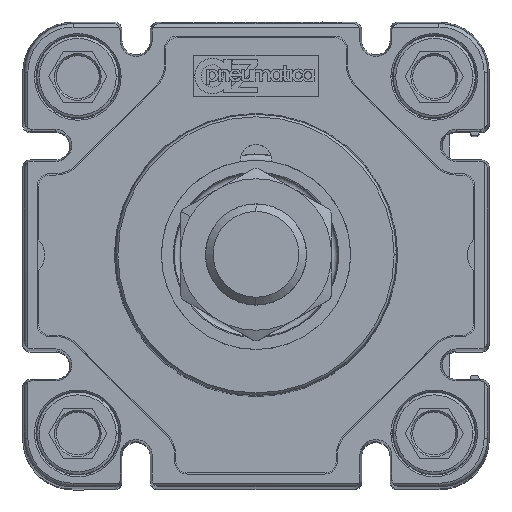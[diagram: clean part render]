
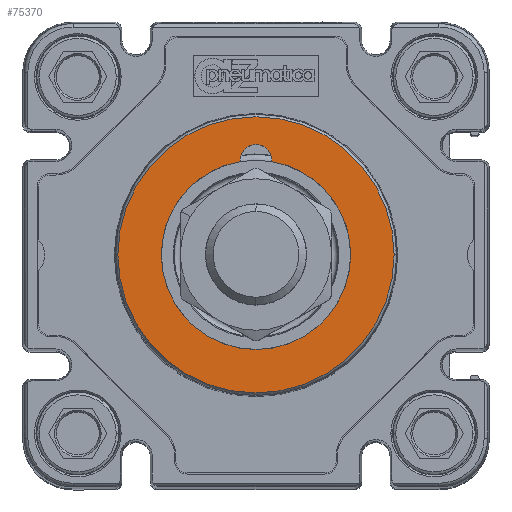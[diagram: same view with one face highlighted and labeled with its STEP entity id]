
A CAD part, top view. The second image highlights one B-rep face of the part: STEP entity #75370.
In plain terms, the highlighted planar face has unit normal (0, 0, 1) as drawn and (0, 0, -1) by its records, which use the part's own axes.
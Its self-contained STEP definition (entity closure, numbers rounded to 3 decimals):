
#52 = EDGE_CURVE ( 'NONE', #84298, #55320, #59478, .T. ) ;
#2358 = VERTEX_POINT ( 'NONE', #27566 ) ;
#3417 = CARTESIAN_POINT ( 'NONE',  ( -15., 0., -57.7 ) ) ;
#5502 = CARTESIAN_POINT ( 'NONE',  ( 0., 0., -57.7 ) ) ;
#5899 = DIRECTION ( 'NONE',  ( 0., 0., 1. ) ) ;
#7448 = DIRECTION ( 'NONE',  ( -1., 0., 0. ) ) ;
#7705 = ORIENTED_EDGE ( 'NONE', *, *, #34279, .T. ) ;
#8964 = CARTESIAN_POINT ( 'NONE',  ( 0., 0., -57.7 ) ) ;
#10767 = VERTEX_POINT ( 'NONE', #76445 ) ;
#11203 = ORIENTED_EDGE ( 'NONE', *, *, #52, .T. ) ;
#12220 = FACE_BOUND ( 'NONE', #12350, .T. ) ;
#12350 = EDGE_LOOP ( 'NONE', ( #92099, #56064, #65234, #11203, #57178, #7705 ) ) ;
#12734 = CARTESIAN_POINT ( 'NONE',  ( 0., 0., -57.7 ) ) ;
#13365 = CIRCLE ( 'NONE', #50775, 15. ) ;
#14003 = CARTESIAN_POINT ( 'NONE',  ( 0., 15., -57.7 ) ) ;
#14781 = DIRECTION ( 'NONE',  ( 0., 0., 1. ) ) ;
#15249 = DIRECTION ( 'NONE',  ( 0., 0., 1. ) ) ;
#18496 = EDGE_CURVE ( 'NONE', #80256, #10767, #26252, .T. ) ;
#21159 = AXIS2_PLACEMENT_3D ( 'NONE', #5502, #64485, #86404 ) ;
#23245 = CARTESIAN_POINT ( 'NONE',  ( -2.491, 14.792, -57.7 ) ) ;
#23252 = CARTESIAN_POINT ( 'NONE',  ( 0., 0., -57.7 ) ) ;
#25413 = AXIS2_PLACEMENT_3D ( 'NONE', #14003, #66143, #51269 ) ;
#26252 = CIRCLE ( 'NONE', #68666, 21.892 ) ;
#27566 = CARTESIAN_POINT ( 'NONE',  ( 15., 0., -57.7 ) ) ;
#28357 = DIRECTION ( 'NONE',  ( -1., 0., 0. ) ) ;
#30039 = AXIS2_PLACEMENT_3D ( 'NONE', #23252, #38175, #45594 ) ;
#33016 = VERTEX_POINT ( 'NONE', #73482 ) ;
#34279 = EDGE_CURVE ( 'NONE', #2358, #33016, #13365, .T. ) ;
#35788 = CIRCLE ( 'NONE', #21159, 15. ) ;
#37778 = ORIENTED_EDGE ( 'NONE', *, *, #18496, .F. ) ;
#38175 = DIRECTION ( 'NONE',  ( 0., 0., 1. ) ) ;
#38526 = CARTESIAN_POINT ( 'NONE',  ( 0., 15., -57.7 ) ) ;
#38933 = AXIS2_PLACEMENT_3D ( 'NONE', #38526, #40133, #54684 ) ;
#39340 = CARTESIAN_POINT ( 'NONE',  ( 0., 0., -57.7 ) ) ;
#40133 = DIRECTION ( 'NONE',  ( 0., 0., 1. ) ) ;
#42749 = EDGE_LOOP ( 'NONE', ( #37778, #70215 ) ) ;
#43181 = CARTESIAN_POINT ( 'NONE',  ( -21.892, 0., -57.7 ) ) ;
#45537 = PLANE ( 'NONE',  #78579 ) ;
#45594 = DIRECTION ( 'NONE',  ( -1., 0., 0. ) ) ;
#46760 = DIRECTION ( 'NONE',  ( 1., 0., 0. ) ) ;
#46774 = EDGE_CURVE ( 'NONE', #33016, #88370, #67419, .T. ) ;
#50491 = CARTESIAN_POINT ( 'NONE',  ( -2.5, 15., -57.7 ) ) ;
#50775 = AXIS2_PLACEMENT_3D ( 'NONE', #12734, #5899, #57113 ) ;
#50920 = CARTESIAN_POINT ( 'NONE',  ( 0., 15., -57.7 ) ) ;
#51269 = DIRECTION ( 'NONE',  ( -1., 0., 0. ) ) ;
#53015 = DIRECTION ( 'NONE',  ( -1., 0., 0. ) ) ;
#54684 = DIRECTION ( 'NONE',  ( -1., 0., 0. ) ) ;
#55152 = CIRCLE ( 'NONE', #25413, 2.5 ) ;
#55320 = VERTEX_POINT ( 'NONE', #3417 ) ;
#56064 = ORIENTED_EDGE ( 'NONE', *, *, #56070, .T. ) ;
#56070 = EDGE_CURVE ( 'NONE', #88370, #72359, #72284, .T. ) ;
#57113 = DIRECTION ( 'NONE',  ( 1., 0., 0. ) ) ;
#57178 = ORIENTED_EDGE ( 'NONE', *, *, #81406, .T. ) ;
#59478 = CIRCLE ( 'NONE', #64486, 15. ) ;
#59562 = CIRCLE ( 'NONE', #30039, 21.892 ) ;
#61306 = DIRECTION ( 'NONE',  ( 0., 0., 1. ) ) ;
#62709 = CARTESIAN_POINT ( 'NONE',  ( 2.5, 15., -57.7 ) ) ;
#64345 = FACE_OUTER_BOUND ( 'NONE', #42749, .T. ) ;
#64485 = DIRECTION ( 'NONE',  ( 0., 0., 1. ) ) ;
#64486 = AXIS2_PLACEMENT_3D ( 'NONE', #39340, #61306, #46760 ) ;
#65234 = ORIENTED_EDGE ( 'NONE', *, *, #90453, .T. ) ;
#65617 = EDGE_CURVE ( 'NONE', #10767, #80256, #59562, .T. ) ;
#66143 = DIRECTION ( 'NONE',  ( 0., 0., 1. ) ) ;
#67419 = CIRCLE ( 'NONE', #38933, 2.5 ) ;
#68666 = AXIS2_PLACEMENT_3D ( 'NONE', #81026, #14781, #28357 ) ;
#70215 = ORIENTED_EDGE ( 'NONE', *, *, #65617, .F. ) ;
#72284 = CIRCLE ( 'NONE', #85123, 2.5 ) ;
#72359 = VERTEX_POINT ( 'NONE', #50491 ) ;
#73482 = CARTESIAN_POINT ( 'NONE',  ( 2.491, 14.792, -57.7 ) ) ;
#75370 = ADVANCED_FACE ( 'NONE', ( #64345, #12220 ), #45537, .T. ) ;
#76445 = CARTESIAN_POINT ( 'NONE',  ( 21.892, 0., -57.7 ) ) ;
#78579 = AXIS2_PLACEMENT_3D ( 'NONE', #8964, #89764, #53015 ) ;
#80256 = VERTEX_POINT ( 'NONE', #43181 ) ;
#81026 = CARTESIAN_POINT ( 'NONE',  ( 0., 0., -57.7 ) ) ;
#81406 = EDGE_CURVE ( 'NONE', #55320, #2358, #35788, .T. ) ;
#84298 = VERTEX_POINT ( 'NONE', #23245 ) ;
#85123 = AXIS2_PLACEMENT_3D ( 'NONE', #50920, #15249, #7448 ) ;
#86404 = DIRECTION ( 'NONE',  ( 1., 0., 0. ) ) ;
#88370 = VERTEX_POINT ( 'NONE', #62709 ) ;
#89764 = DIRECTION ( 'NONE',  ( 0., 0., -1. ) ) ;
#90453 = EDGE_CURVE ( 'NONE', #72359, #84298, #55152, .T. ) ;
#92099 = ORIENTED_EDGE ( 'NONE', *, *, #46774, .T. ) ;
